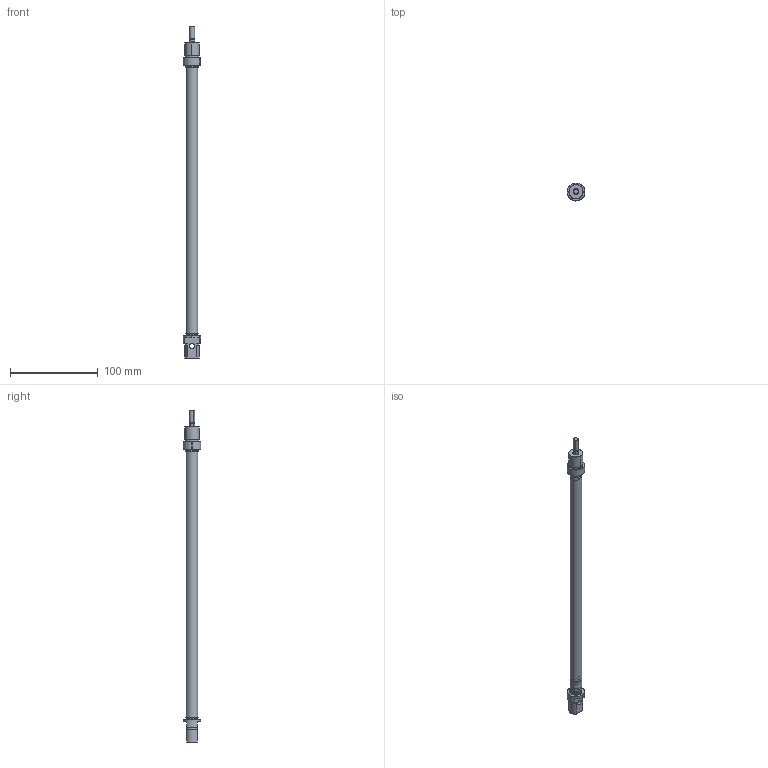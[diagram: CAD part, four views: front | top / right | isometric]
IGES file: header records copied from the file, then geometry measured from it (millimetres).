
Start section: SolidWorks IGES file using analytic representation for surfaces
Global section: file name: D:\ARICA 3D 禽Z軲LER\3D IGES\MA6432S\MA6432S 12\MA6432S12x275CYLINDER.IGS,1; native system: 5HSolidWorks 2013; preprocessor: SolidWorks 2013; author: user; date: 150512.121553; units: millimetre
Bounding box: 20 x 20 x 379 mm (x, y, z)
Surface area: 38287.4 mm2 (no closed solid volume)
Topology: 0 solids, 0 shells, 196 faces, 3760 edges, 3758 vertices
Faces by surface type: revolution 138, bspline 58
